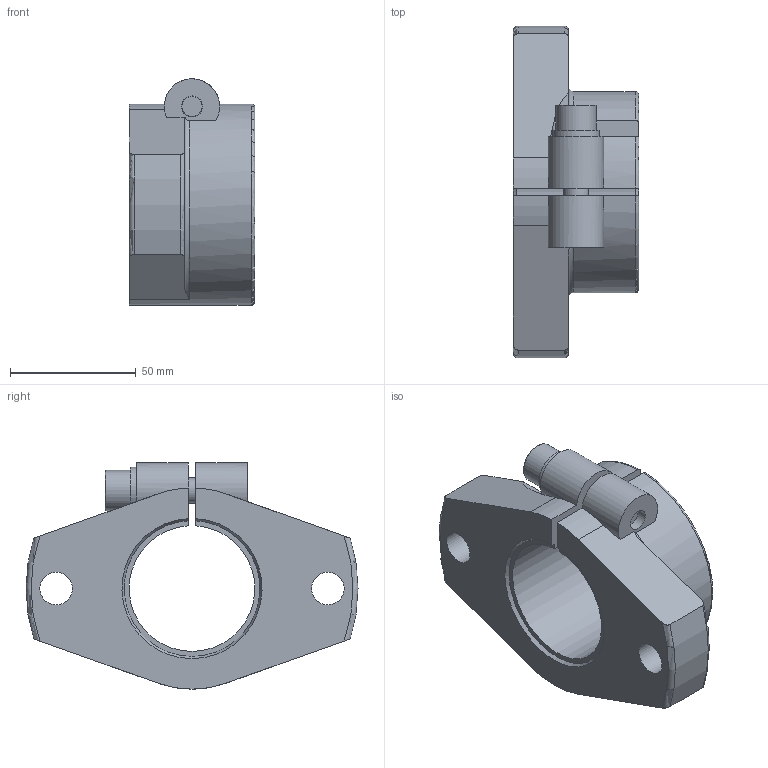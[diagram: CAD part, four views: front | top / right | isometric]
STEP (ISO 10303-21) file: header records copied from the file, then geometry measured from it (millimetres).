
FILE_DESCRIPTION((''),'2;1');
FILE_NAME('D:\製品 (図面)\カタログ用3D\シャフトブロック関連\STEP形式\SF\SF50.stp','2010-06-01T16:27:00',('Tsuchiya'),(''),'Autodesk Inventor 10','Autodesk Inventor 10','');
FILE_SCHEMA(('AUTOMOTIVE_DESIGN { 1 0 10303 214 1 1 1 1 }'));
Length unit declared in the file: millimetre
Products named in the file (1): SF50
Bounding box: 50 x 132 x 89.98 mm (x, y, z)
Volume: 218938.3 mm3; surface area: 40113.1 mm2
Topology: 1 solids, 1 shells, 55 faces, 149 edges, 100 vertices
Faces by surface type: plane 25, cylinder 15, torus 7, cone 4, bspline 4
Full cylindrical faces by diameter (mm): 10 x1, 13 x2, 16 x1, 18.4 x1
Entity records: 2047 total; most frequent: CARTESIAN_POINT 748, ORIENTED_EDGE 264, DIRECTION 253, EDGE_CURVE 132, AXIS2_PLACEMENT_3D 101, VERTEX_POINT 93, EDGE_LOOP 75, FACE_OUTER_BOUND 55
